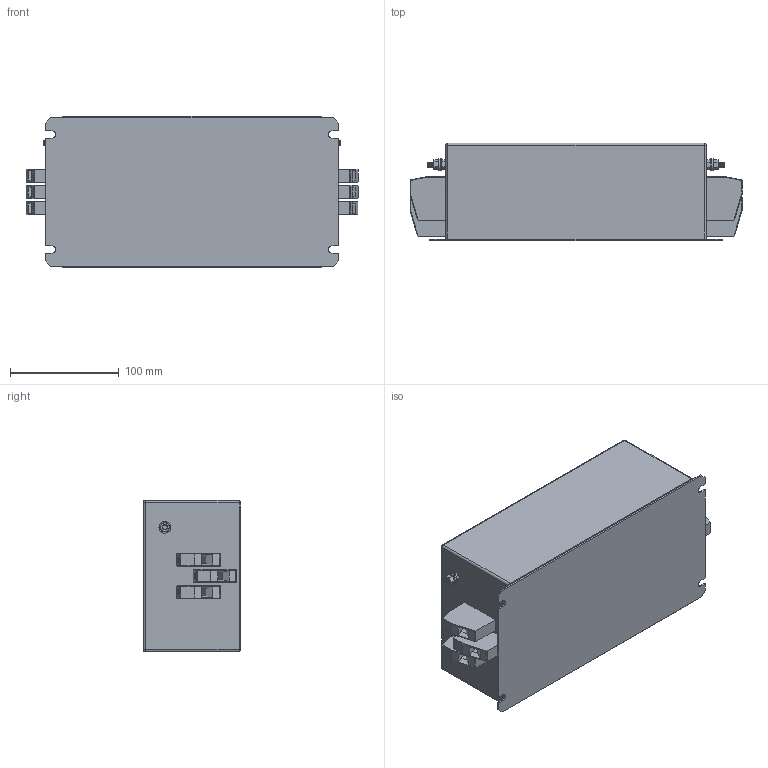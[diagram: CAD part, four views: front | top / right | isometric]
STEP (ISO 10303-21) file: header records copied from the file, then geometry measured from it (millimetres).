
FILE_DESCRIPTION (( 'STEP AP203' ), '1' );
FILE_NAME ('NF-DAR-63-3.STEP', '2022-07-28T08:15:06', ( '' ), ( '' ), 'SwSTEP 2.0', 'SolidWorks 2017', '' );
FILE_SCHEMA (( 'CONFIG_CONTROL_DESIGN' ));
Length unit declared in the file: millimetre
Products named in the file (7): M5x13 Earth post; DAR60-3 case; hex nut style 1_am_B18.2.4.1M - Hex nut, Style 1,  M5 x 0.8 --D-N; flat washer narrow_am_B18.22M - Plain washer, 5 mm, narrow; hex screw_am_B18.6.7M - M5 x 0.8 x 13 Indented HHMS --13S; HDFK-16; NF-DAR-63-3
Assembly tree (13 placements, depth 3):
  NF-DAR-63-3
    DAR60-3 case
    HDFK-16  x6
    M5x13 Earth post  x2
      hex screw_am_B18.6.7M - M5 x 0.8 x 13 Indented HHMS --13S
      flat washer narrow_am_B18.22M - Plain washer, 5 mm, narrow
      hex nut style 1_am_B18.2.4.1M - Hex nut, Style 1,  M5 x 0.8 --D-N
Bounding box: 306.01 x 90 x 140 mm (x, y, z)
Volume: 3100523.8 mm3; surface area: 188823.3 mm2
Topology: 15 solids, 15 shells, 802 faces, 1880 edges, 1144 vertices
Faces by surface type: plane 446, cone 200, cylinder 152, sphere 4
Entity records: 9181 total; most frequent: CARTESIAN_POINT 1543, DIRECTION 1502, ORIENTED_EDGE 1352, EDGE_CURVE 676, AXIS2_PLACEMENT_3D 567, VERTEX_POINT 416, LINE 368, VECTOR 368
